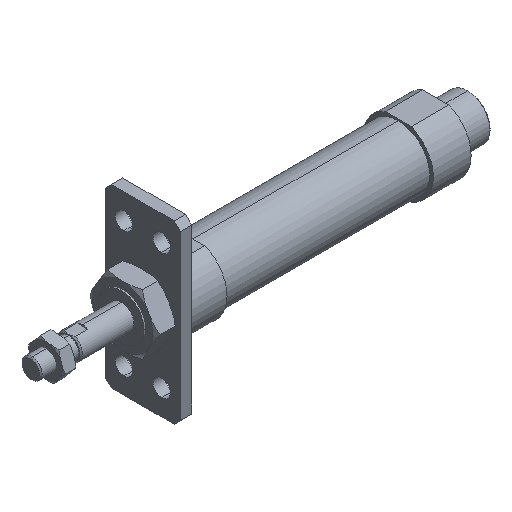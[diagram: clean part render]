
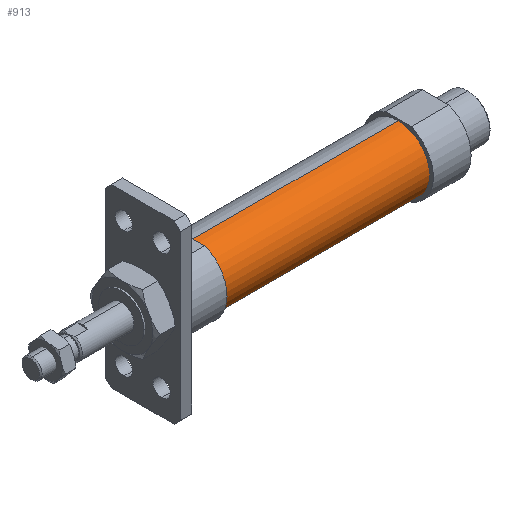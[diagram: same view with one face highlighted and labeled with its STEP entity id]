
A CAD part, isometric view. The second image highlights one B-rep face of the part: STEP entity #913.
In plain terms, the highlighted cylindrical face has radius 12.5 mm (diameter 25 mm), a partial arc.
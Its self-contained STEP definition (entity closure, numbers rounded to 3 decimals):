
#6 = CARTESIAN_POINT ( 'NONE',  ( 64., 0., 0. ) ) ;
#244 = EDGE_CURVE ( 'NONE', #3267, #2253, #838, .T. ) ;
#325 = VERTEX_POINT ( 'NONE', #741 ) ;
#470 = EDGE_CURVE ( 'NONE', #2253, #1076, #2927, .T. ) ;
#481 = ORIENTED_EDGE ( 'NONE', *, *, #1700, .F. ) ;
#542 = CARTESIAN_POINT ( 'NONE',  ( 146., 0., -12.5 ) ) ;
#734 = CARTESIAN_POINT ( 'NONE',  ( -6.469, 0., 0. ) ) ;
#741 = CARTESIAN_POINT ( 'NONE',  ( 64., 0., -12.5 ) ) ;
#797 = ORIENTED_EDGE ( 'NONE', *, *, #244, .T. ) ;
#820 = CARTESIAN_POINT ( 'NONE',  ( -6.469, 0., 12.5 ) ) ;
#838 = CIRCLE ( 'NONE', #2613, 12.5 ) ;
#903 = VECTOR ( 'NONE', #1797, 1000. ) ;
#913 = ADVANCED_FACE ( 'NONE', ( #3146 ), #1047, .T. ) ;
#946 = DIRECTION ( 'NONE',  ( -1., 0., 0. ) ) ;
#1047 = CYLINDRICAL_SURFACE ( 'NONE', #2591, 12.5 ) ;
#1076 = VERTEX_POINT ( 'NONE', #3292 ) ;
#1251 = DIRECTION ( 'NONE',  ( -1., 0., 0. ) ) ;
#1339 = EDGE_LOOP ( 'NONE', ( #1878, #797, #2420, #481 ) ) ;
#1595 = EDGE_CURVE ( 'NONE', #3267, #325, #1925, .T. ) ;
#1700 = EDGE_CURVE ( 'NONE', #325, #1076, #2585, .T. ) ;
#1797 = DIRECTION ( 'NONE',  ( -1., 0., 0. ) ) ;
#1878 = ORIENTED_EDGE ( 'NONE', *, *, #1595, .F. ) ;
#1925 = LINE ( 'NONE', #3335, #903 ) ;
#2083 = CARTESIAN_POINT ( 'NONE',  ( 146., 0., 0. ) ) ;
#2253 = VERTEX_POINT ( 'NONE', #3823 ) ;
#2338 = DIRECTION ( 'NONE',  ( 0., 0., 1. ) ) ;
#2420 = ORIENTED_EDGE ( 'NONE', *, *, #470, .T. ) ;
#2434 = DIRECTION ( 'NONE',  ( 0., 0., 1. ) ) ;
#2585 = CIRCLE ( 'NONE', #3469, 12.5 ) ;
#2591 = AXIS2_PLACEMENT_3D ( 'NONE', #734, #1251, #2761 ) ;
#2613 = AXIS2_PLACEMENT_3D ( 'NONE', #2083, #3147, #2338 ) ;
#2761 = DIRECTION ( 'NONE',  ( 0., 0., 1. ) ) ;
#2927 = LINE ( 'NONE', #820, #3580 ) ;
#3146 = FACE_OUTER_BOUND ( 'NONE', #1339, .T. ) ;
#3147 = DIRECTION ( 'NONE',  ( -1., 0., 0. ) ) ;
#3267 = VERTEX_POINT ( 'NONE', #542 ) ;
#3292 = CARTESIAN_POINT ( 'NONE',  ( 64., 0., 12.5 ) ) ;
#3335 = CARTESIAN_POINT ( 'NONE',  ( -6.469, 0., -12.5 ) ) ;
#3469 = AXIS2_PLACEMENT_3D ( 'NONE', #6, #3841, #2434 ) ;
#3580 = VECTOR ( 'NONE', #946, 1000. ) ;
#3823 = CARTESIAN_POINT ( 'NONE',  ( 146., 0., 12.5 ) ) ;
#3841 = DIRECTION ( 'NONE',  ( -1., 0., 0. ) ) ;
